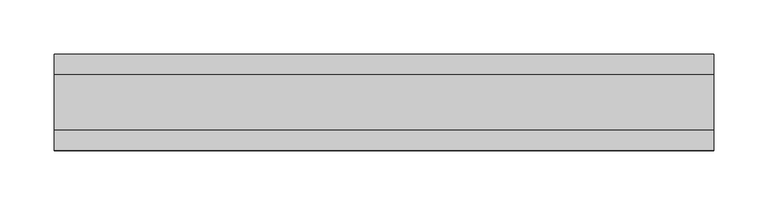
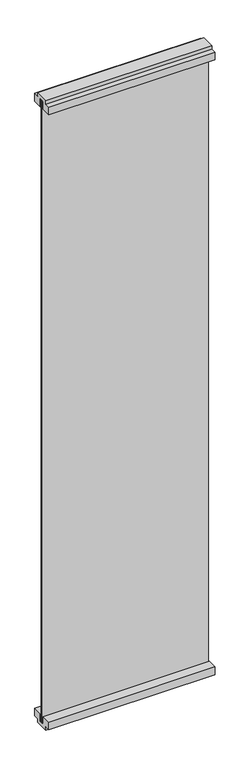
"""IFC4 building model written with IfcOpenShell, lengths in millimetres: furniture geometry, Allsteel - Aspect - Panel - 1-Way End (02-18-25) : Allsteel - Aspect - Panel - 1-Way End (02-18-25)."""

from ifc_helpers import new_model, si_unit, frame, origin, place, context, project, spatial, polyline, outline, extrude, source, transform, mapped, element, save


def furniture_0064ad75(model_context):
    return source(origin(), model_context, "Body", "SweptSolid", [
        extrude(outline(polyline([(609.6, -3.175), (0.0, -3.175), (0.0, 3.175), (609.6, 3.175), (609.6, -3.175)])), frame((0.0, 0.0, 12.7), z_axis=(0.0, 0.0, 1.0), x_axis=(1.0, 0.0, 0.0)), (0.0, 0.0, 1.0), 2413.0),
        extrude(outline(polyline([(-25.4, 2438.4), (25.4, 2438.4), (25.4, 2425.7), (44.45, 2425.7), (44.45, 2395.5375), (9.525, 2395.5375), (9.525, 2425.7), (-9.525, 2425.7), (-9.525, 2395.5375), (-44.45, 2395.5375), (-44.45, 2425.7), (-25.4, 2425.7), (-25.4, 2438.4)])), frame((0.0, 0.0, 0.0), z_axis=(1.0, 0.0, 0.0), x_axis=(0.0, 1.0, 0.0)), (0.0, 0.0, 1.0), 609.6),
        extrude(outline(polyline([(25.4, 0.0), (-25.4, 0.0), (-25.4, 12.7), (-44.45, 12.7), (-44.45, 42.8625), (-9.525, 42.8625), (-9.525, 12.7), (9.525, 12.7), (9.525, 42.8625), (44.45, 42.8625), (44.45, 12.7), (25.4, 12.7), (25.4, 0.0)])), frame((0.0, 0.0, 0.0), z_axis=(1.0, 0.0, 0.0), x_axis=(0.0, 1.0, 0.0)), (0.0, 0.0, 1.0), 609.6),
    ])


if __name__ == "__main__":
    model = new_model("IFC4")
    model_context = context("Model", 3, world=origin())
    ifc_project = project(units=[si_unit("LENGTHUNIT", "METRE", prefix="MILLI")], contexts=[model_context])
    site = spatial("IfcSite", under=ifc_project)
    building = spatial("IfcBuilding", under=site)
    placement = place(None, origin())
    furniture_shape = furniture_0064ad75(model_context)
    element("IfcFurniture", 1, ObjectType="Allsteel - Aspect - Panel - 1-Way End (02-18-25) : Allsteel - Aspect - Panel - 1-Way End (02-18-25)", at=placement, inside=building, context=model_context, shape_type="MappedRepresentation", body=[
        mapped(furniture_shape, transform((0.0, 0.0, 0.0), x_axis=(1.0, 0.0, 0.0), y_axis=(0.0, 1.0, 0.0), z_axis=(0.0, 0.0, 1.0))),
    ])
    save(model, "model.ifc")
